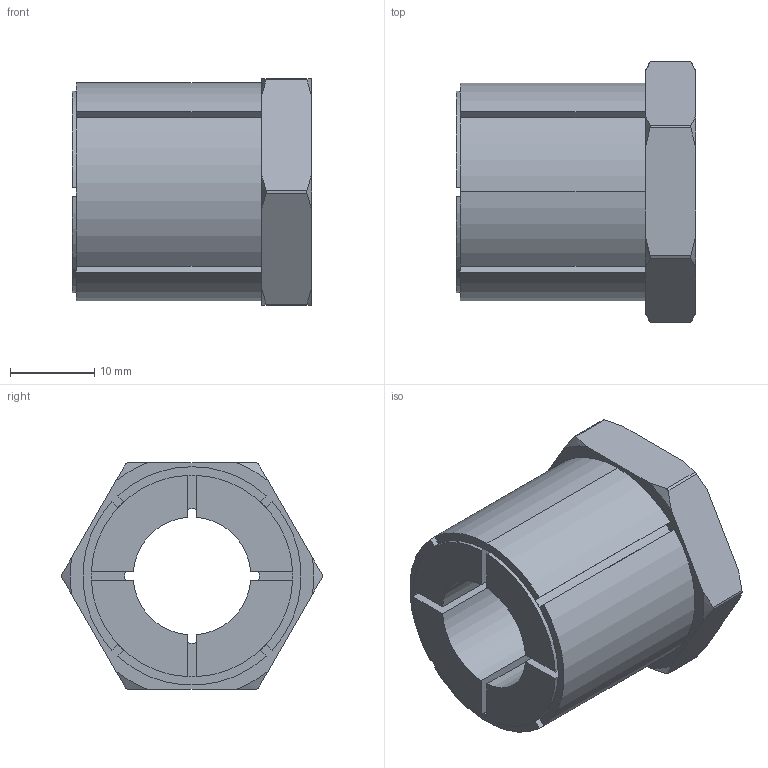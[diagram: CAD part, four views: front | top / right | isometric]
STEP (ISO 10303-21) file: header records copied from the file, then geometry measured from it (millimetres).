
FILE_DESCRIPTION (( 'STEP AP203' ), '1' );
FILE_NAME ('KBS 58 - 14 x 26.STEP', '2015-07-05T19:50:28', ( '' ), ( '' ), 'SwSTEP 2.0', 'SolidWorks 2010', '' );
FILE_SCHEMA (( 'CONFIG_CONTROL_DESIGN' ));
Length unit declared in the file: millimetre
Products named in the file (1): KBS 58 - 14 x 26
Bounding box: 28.5 x 31 x 27 mm (x, y, z)
Volume: 10629.2 mm3; surface area: 5879.5 mm2
Topology: 1 solids, 1 shells, 79 faces, 220 edges, 144 vertices
Faces by surface type: plane 37, cylinder 26, cone 16
Entity records: 2687 total; most frequent: CARTESIAN_POINT 564, ORIENTED_EDGE 440, DIRECTION 428, EDGE_CURVE 220, AXIS2_PLACEMENT_3D 160, VERTEX_POINT 144, VECTOR 108, LINE 108
